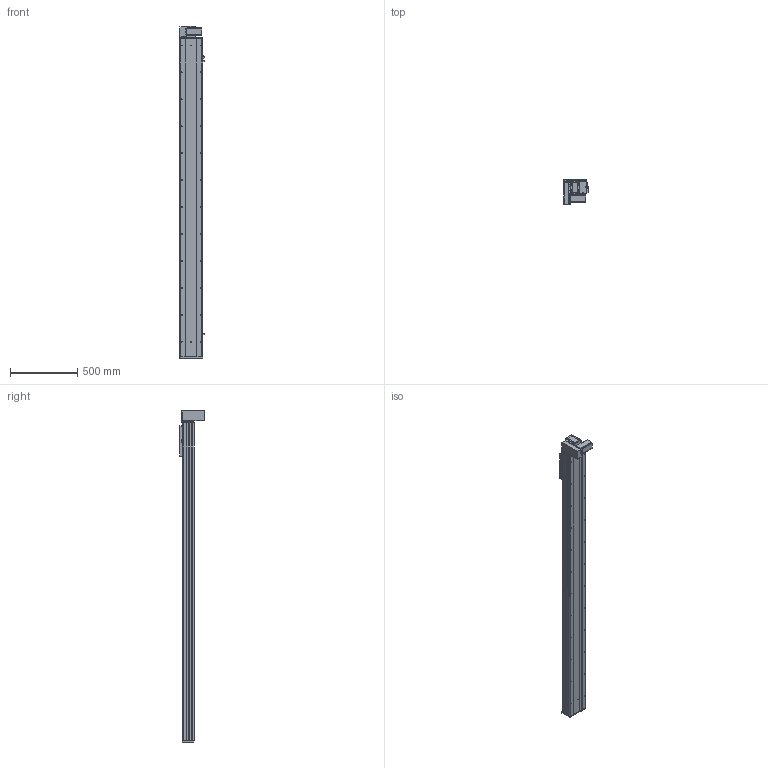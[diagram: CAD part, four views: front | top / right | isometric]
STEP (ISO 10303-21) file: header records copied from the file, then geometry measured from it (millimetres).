
FILE_DESCRIPTION (( 'STEP AP203' ), '1' );
FILE_NAME ('Y170CB-D105-S2150-BM-P400W.STEP', '2020-02-20T07:26:53', ( '微软用户' ), ( '微软中国' ), 'SwSTEP 2.0', 'SolidWorks 2017', '' );
FILE_SCHEMA (( 'CONFIG_CONTROL_DESIGN' ));
Length unit declared in the file: millimetre
Products named in the file (18): 70B喘謫眊----; Y170CB-D105-S2150-BM-P400W; 70C-雄赽釱-奻-; B-源倛裔啣; 0C--雄赽釱俋欶-170; 0B-萇儂楊擘啣; 70CB-詩湍--; san松下电机400不带刹车----; Y100-135俋离換覜ん--; 70CB-掛极-; Y170CB-陔俋离換覜結え---; --70CB --喘謫眊楊擘啣-; Y1埴倛裔; 70CB-耜裔啣-; 17B-耜蚾蟀諉啣----; 70C--詩湍揤踡え-; 00B-俋欶BM--163; 70CB--耜裔
Assembly tree (21 placements, depth 2):
  Y170CB-D105-S2150-BM-P400W
    B-源倛裔啣
    0B-萇儂楊擘啣
    san松下电机400不带刹车----
    70CB-掛极-
    --70CB --喘謫眊楊擘啣-
    70CB-耜裔啣-  x2
    70C--詩湍揤踡え-  x2
    70CB--耜裔
    70C-雄赽釱-奻-
    0C--雄赽釱俋欶-170
    70CB-詩湍--
    Y100-135俋离換覜ん--  x3
    Y170CB-陔俋离換覜結え---
    Y1埴倛裔
    17B-耜蚾蟀諉啣----
    00B-俋欶BM--163
    70B喘謫眊----
Bounding box: 183.5 x 184 x 2466 mm (x, y, z)
Volume: 10674099.5 mm3; surface area: 3848957.1 mm2
Topology: 21 solids, 21 shells, 1047 faces, 2813 edges, 1866 vertices
Faces by surface type: cylinder 561, plane 462, cone 24
Entity records: 33496 total; most frequent: CARTESIAN_POINT 6156, DIRECTION 5450, ORIENTED_EDGE 5108, EDGE_CURVE 2554, AXIS2_PLACEMENT_3D 2008, VERTEX_POINT 1696, VECTOR 1434, LINE 1434
